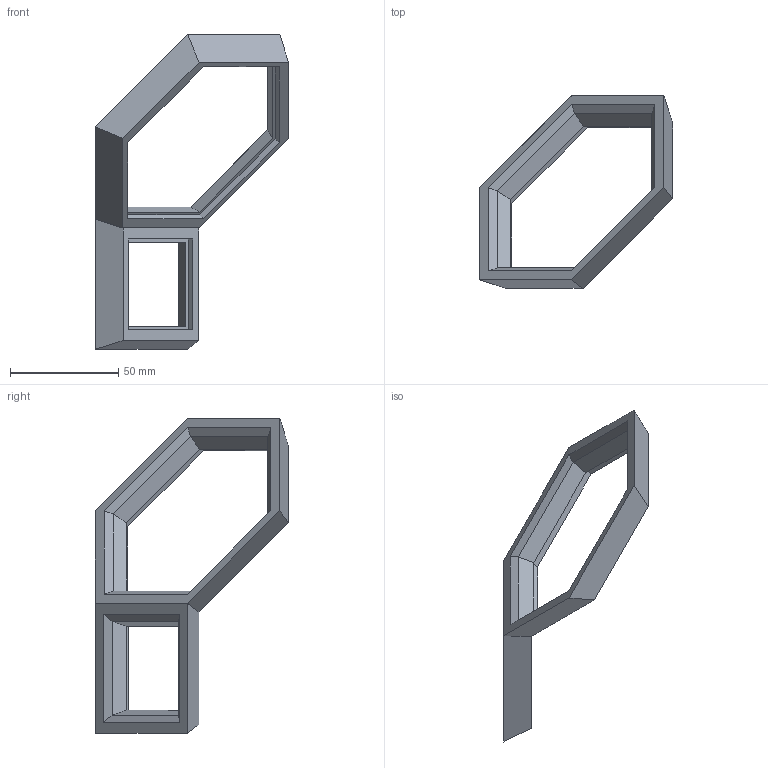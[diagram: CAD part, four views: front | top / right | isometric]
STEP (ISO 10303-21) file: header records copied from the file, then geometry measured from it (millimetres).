
FILE_DESCRIPTION(/* description */ (''),/* implementation_level */ '2;1');
FILE_NAME(/* name */ 'Truncated Cuboctahedron Tutorial Video.step',/* time_stamp */ '2026-06-04T11:19:27-04:00',/* author */ (''),/* organization */ (''),/* preprocessor_version */ 'ST-DEVELOPER v20.1',/* originating_system */ 'Autodesk Translation Framework v15.8.0.0',/* authorisation */ '');
FILE_SCHEMA (('AUTOMOTIVE_DESIGN { 1 0 10303 214 3 1 1 }'));
Length unit declared in the file: inch
Products named in the file (1): forum poly
Bounding box: 89.28 x 89.28 x 145.44 mm (x, y, z)
Volume: 41797.4 mm3; surface area: 20471 mm2
Topology: 2 solids, 2 shells, 70 faces, 160 edges, 102 vertices
Faces by surface type: plane 62, cone 8
Entity records: 1966 total; most frequent: CARTESIAN_POINT 333, ORIENTED_EDGE 320, DIRECTION 314, EDGE_CURVE 160, LINE 148, VECTOR 148, VERTEX_POINT 102, AXIS2_PLACEMENT_3D 83
